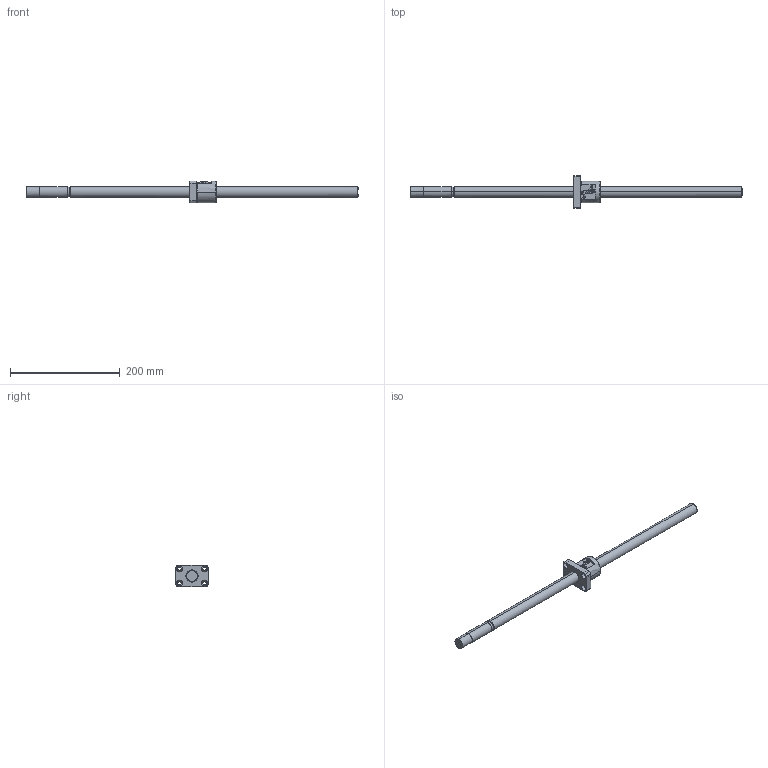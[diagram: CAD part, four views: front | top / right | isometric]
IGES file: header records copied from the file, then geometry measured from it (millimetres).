
Global section: file name: No Iges File Name specified; native system: AutoDesk Inventor R10; preprocessor: AutoDesk Inventor Iges Exporter R10; author: No Author specified; organization: No Organization specified; date: 20101224.141249; units: millimetre
Bounding box: 605 x 60 x 40 mm (x, y, z)
Surface area: 54345.8 mm2 (no closed solid volume)
Topology: 0 solids, 0 shells, 133 faces, 980 edges, 980 vertices
Faces by surface type: bspline 133
